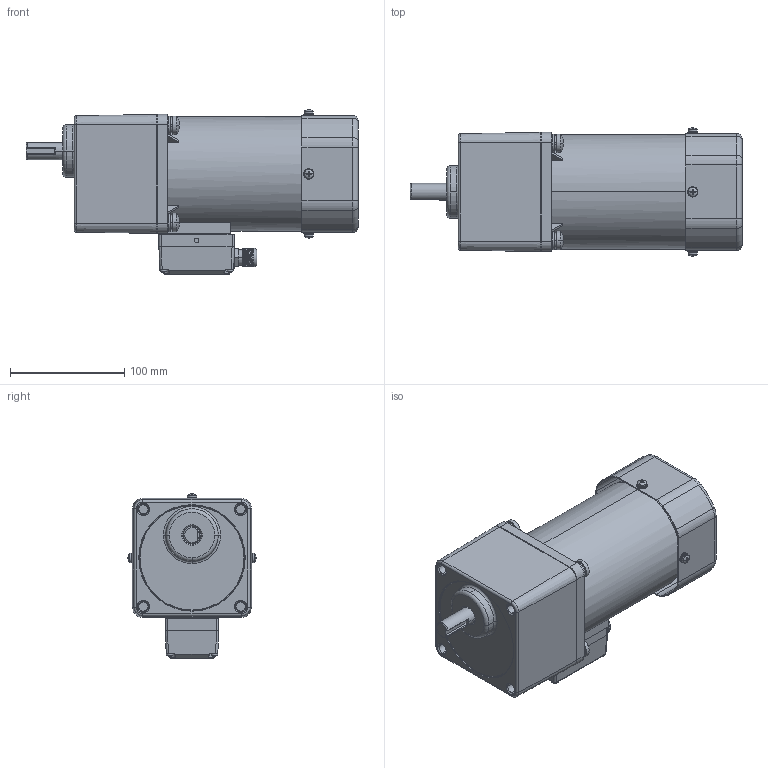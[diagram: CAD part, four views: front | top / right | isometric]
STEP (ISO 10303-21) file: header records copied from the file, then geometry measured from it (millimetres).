
FILE_DESCRIPTION (( 'STEP AP203' ), '1' );
FILE_NAME ('6IK200RGU-CFT(6GU3K-200K).STEP', '2022-11-01T00:37:06', ( 'Windows User' ), ( 'P R C' ), 'SwSTEP 2.0', 'SolidWorks 2019', '' );
FILE_SCHEMA (( 'CONFIG_CONTROL_DESIGN' ));
Length unit declared in the file: millimetre
Products named in the file (10): 葩璃 (3) ^_70TSJXHG_6IK120RA-CFT_6IK200RGU-CFT(6GU3K-200K)(2)_6IK200RGU-CFT(6GU3K-200K); 6IK200RGU-CFT(6GU3K-200K)(2)^6IK200RGU-CFT(6GU3K-200K); 葩璃 (2) ^_70TSJXHG_6IK120RA-CFT_6IK200RGU-CFT(6GU3K-200K)(2)_6IK200RGU-CFT(6GU3K-200K); 6IK120RA-CFT^6IK200RGU-CFT(6GU3K-200K)(2)_6IK200RGU-CFT(6GU3K-200K); ^70TSJXHG_6IK120RA-CFT_6IK200RGU-CFT(6GU3K-200K)(2)_6IK200RGU-CFT(6GU3K-200K); 6GU3K-200K; 6IK200RGU-CFT(6GU3K-200K); 100JXHJK^6IK120RA-CFT_6IK200RGU-CFT(6GU3K-200K)(2)_6IK200RGU-CFT(6GU3K-200K); 70TSJXHG^6IK120RA-CFT_6IK200RGU-CFT(6GU3K-200K)(2)_6IK200RGU-CFT(6GU3K-200K); ^_70TSJXHG_6IK120RA-CFT_6IK200RGU-CFT(6GU3K-200K)(2)_6IK200RGU-CFT(6GU3K-200K)
Assembly tree (12 placements, depth 6):
  6IK200RGU-CFT(6GU3K-200K)
    6IK200RGU-CFT(6GU3K-200K)(2)^6IK200RGU-CFT(6GU3K-200K)
      6IK120RA-CFT^6IK200RGU-CFT(6GU3K-200K)(2)_6IK200RGU-CFT(6GU3K-200K)
        70TSJXHG^6IK120RA-CFT_6IK200RGU-CFT(6GU3K-200K)(2)_6IK200RGU-CFT(6GU3K-200K)
          ^70TSJXHG_6IK120RA-CFT_6IK200RGU-CFT(6GU3K-200K)(2)_6IK200RGU-CFT(6GU3K-200K)
            ^_70TSJXHG_6IK120RA-CFT_6IK200RGU-CFT(6GU3K-200K)(2)_6IK200RGU-CFT(6GU3K-200K)
            葩璃 (2) ^_70TSJXHG_6IK120RA-CFT_6IK200RGU-CFT(6GU3K-200K)(2)_6IK200RGU-CFT(6GU3K-200K)
            葩璃 (3) ^_70TSJXHG_6IK120RA-CFT_6IK200RGU-CFT(6GU3K-200K)(2)_6IK200RGU-CFT(6GU3K-200K)  x4
        100JXHJK^6IK120RA-CFT_6IK200RGU-CFT(6GU3K-200K)(2)_6IK200RGU-CFT(6GU3K-200K)
    6GU3K-200K
Bounding box: 290 x 111.91 x 143.46 mm (x, y, z)
Volume: 2011676.7 mm3; surface area: 210701.1 mm2
Topology: 33 solids, 33 shells, 1574 faces, 4068 edges, 2593 vertices
Faces by surface type: cylinder 680, plane 458, cone 314, torus 72, sphere 40, bspline 10
Entity records: 42425 total; most frequent: CARTESIAN_POINT 11696, DIRECTION 6504, ORIENTED_EDGE 6124, EDGE_CURVE 3062, AXIS2_PLACEMENT_3D 2606, VERTEX_POINT 1977, CIRCLE 1410, EDGE_LOOP 1297
